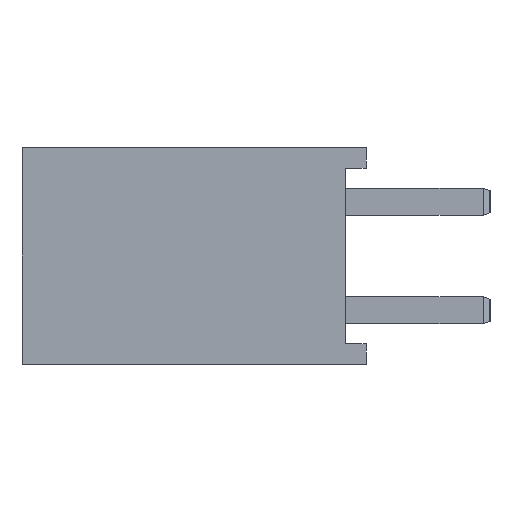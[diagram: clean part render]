
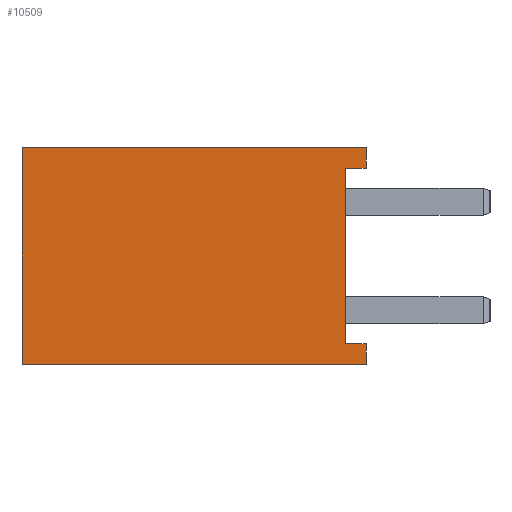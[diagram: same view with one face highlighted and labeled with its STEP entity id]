
A CAD part, left-side view. The second image highlights one B-rep face of the part: STEP entity #10509.
In plain terms, the highlighted planar face has unit normal (-1, 0, 0).
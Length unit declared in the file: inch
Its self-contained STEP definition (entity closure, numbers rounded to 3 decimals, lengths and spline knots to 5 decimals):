
#355=ORIENTED_EDGE('',*,*,#3309,.T.);
#356=ORIENTED_EDGE('',*,*,#3165,.T.);
#357=ORIENTED_EDGE('',*,*,#3247,.F.);
#358=ORIENTED_EDGE('',*,*,#3343,.F.);
#359=ORIENTED_EDGE('',*,*,#3241,.T.);
#360=ORIENTED_EDGE('',*,*,#3209,.T.);
#361=ORIENTED_EDGE('',*,*,#3342,.T.);
#362=ORIENTED_EDGE('',*,*,#3344,.T.);
#3165=EDGE_CURVE('',#4682,#4681,#5665,.T.);
#3209=EDGE_CURVE('',#4726,#4725,#5709,.T.);
#3241=EDGE_CURVE('',#4747,#4726,#5741,.T.);
#3247=EDGE_CURVE('',#4751,#4681,#5747,.T.);
#3309=EDGE_CURVE('',#4792,#4682,#5809,.T.);
#3342=EDGE_CURVE('',#4725,#4814,#5842,.T.);
#3343=EDGE_CURVE('',#4747,#4751,#5843,.T.);
#3344=EDGE_CURVE('',#4814,#4792,#5844,.T.);
#4681=VERTEX_POINT('',#14573);
#4682=VERTEX_POINT('',#14575);
#4725=VERTEX_POINT('',#14672);
#4726=VERTEX_POINT('',#14674);
#4747=VERTEX_POINT('',#14728);
#4751=VERTEX_POINT('',#14738);
#4792=VERTEX_POINT('',#14851);
#4814=VERTEX_POINT('',#14918);
#5665=LINE('',#14574,#7141);
#5709=LINE('',#14673,#7185);
#5741=LINE('',#14727,#7217);
#5747=LINE('',#14739,#7223);
#5809=LINE('',#14853,#7285);
#5842=LINE('',#14919,#7318);
#5843=LINE('',#14921,#7319);
#5844=LINE('',#14922,#7320);
#7141=VECTOR('',#11789,39.37008);
#7185=VECTOR('',#11855,39.37008);
#7217=VECTOR('',#11889,39.37008);
#7223=VECTOR('',#11897,39.37008);
#7285=VECTOR('',#11981,39.37008);
#7318=VECTOR('',#12036,39.37008);
#7319=VECTOR('',#12039,39.37008);
#7320=VECTOR('',#12040,39.37008);
#8621=EDGE_LOOP('',(#355,#356,#357,#358,#359,#360,#361,#362));
#9277=FACE_BOUND('',#8621,.T.);
#9933=PLANE('',#11131);
#10509=ADVANCED_FACE('',(#9277),#9933,.F.);
#11131=AXIS2_PLACEMENT_3D('',#14920,#12037,#12038);
#11789=DIRECTION('',(0.,0.,1.));
#11855=DIRECTION('',(0.,0.,1.));
#11889=DIRECTION('',(0.,-1.,0.));
#11897=DIRECTION('',(0.,-1.,0.));
#11981=DIRECTION('',(0.,-1.,0.));
#12036=DIRECTION('',(0.,1.,0.));
#12037=DIRECTION('',(1.,0.,0.));
#12038=DIRECTION('',(0.,0.,-1.));
#12039=DIRECTION('',(0.,0.,1.));
#12040=DIRECTION('',(0.,0.,1.));
#14573=CARTESIAN_POINT('',(0.,0.,0.07875));
#14574=CARTESIAN_POINT('',(0.,0.,-0.07875));
#14575=CARTESIAN_POINT('',(0.,0.,0.06375));
#14672=CARTESIAN_POINT('',(0.,0.,-0.06375));
#14673=CARTESIAN_POINT('',(0.,0.,-0.07875));
#14674=CARTESIAN_POINT('',(0.,0.,-0.07875));
#14727=CARTESIAN_POINT('',(0.,0.25,-0.07875));
#14728=CARTESIAN_POINT('',(0.,0.25,-0.07875));
#14738=CARTESIAN_POINT('',(0.,0.25,0.07875));
#14739=CARTESIAN_POINT('',(0.,0.25,0.07875));
#14851=CARTESIAN_POINT('',(0.,0.015,0.06375));
#14853=CARTESIAN_POINT('',(0.,0.015,0.06375));
#14918=CARTESIAN_POINT('',(0.,0.015,-0.06375));
#14919=CARTESIAN_POINT('',(0.,0.,-0.06375));
#14920=CARTESIAN_POINT('',(0.,0.25,-0.07875));
#14921=CARTESIAN_POINT('',(0.,0.25,-0.07875));
#14922=CARTESIAN_POINT('',(0.,0.015,-0.06375));
